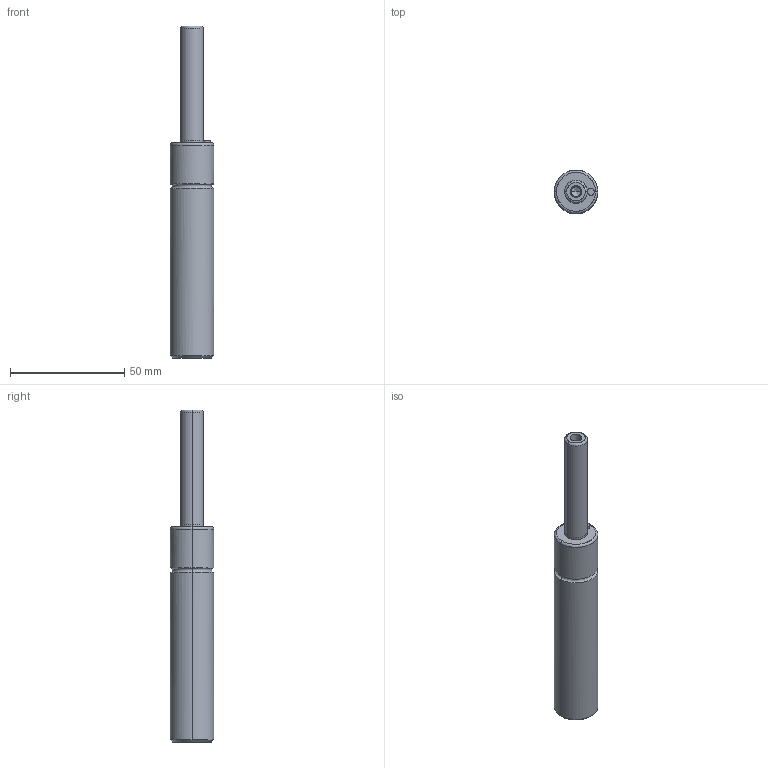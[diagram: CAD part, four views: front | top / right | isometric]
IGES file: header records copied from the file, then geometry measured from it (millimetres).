
Global section: file name: E:\UnigraphicsGraphicData\MISUMI_PRESS-PARTS\IGES\3d_mgsa19-50_04546_r00.igs; native system: NX V5.0; preprocessor: UGS NX IGES V5.0; author: MISUMI; date: 20110105.161431; units: millimetre
Bounding box: 19 x 18.98 x 145 mm (x, y, z)
Surface area: 8056.4 mm2 (no closed solid volume)
Topology: 0 solids, 0 shells, 36 faces, 216 edges, 211 vertices
Faces by surface type: bspline 36
